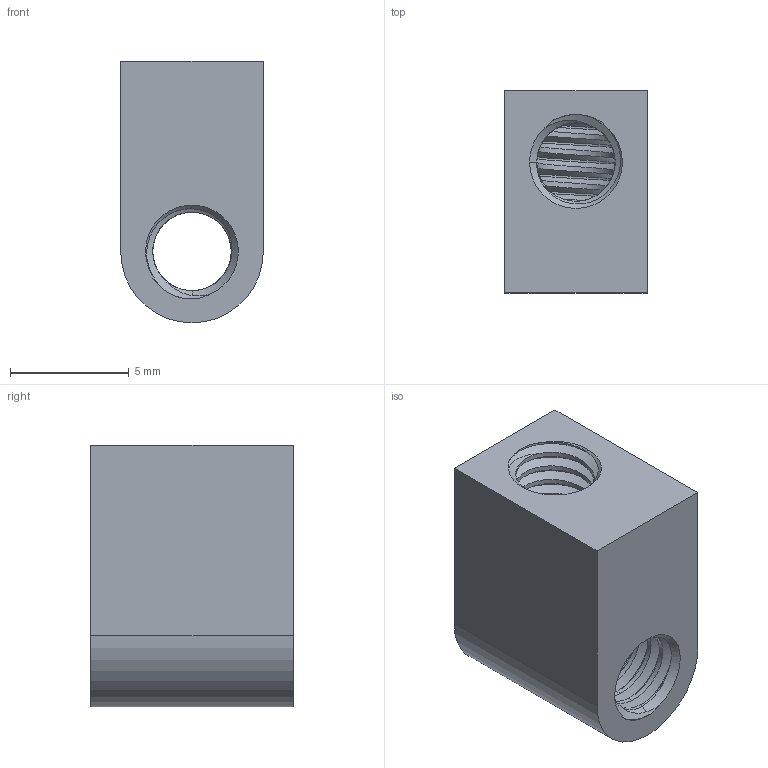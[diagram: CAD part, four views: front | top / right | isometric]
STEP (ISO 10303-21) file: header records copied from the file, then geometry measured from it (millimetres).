
FILE_DESCRIPTION (( 'STEP AP203' ), '1' );
FILE_NAME ('1203-0001-0001.STEP', '2018-01-10T15:25:45', ( '' ), ( '' ), 'SwSTEP 2.0', 'SolidWorks 2016', '' );
FILE_SCHEMA (( 'CONFIG_CONTROL_DESIGN' ));
Products named in the file (1): 1203-0001-0001
Bounding box: 6 x 8.5 x 11 mm (x, y, z)
Volume: 375 mm3; surface area: 610.5 mm2
Topology: 1 solids, 1 shells, 168 faces, 497 edges, 331 vertices
Faces by surface type: cylinder 114, bspline 38, cone 9, plane 7
Entity records: 47646 total; most frequent: CARTESIAN_POINT 44194, ORIENTED_EDGE 994, EDGE_CURVE 497, DIRECTION 395, VERTEX_POINT 331, EDGE_LOOP 172, ADVANCED_FACE 168, FACE_OUTER_BOUND 168
